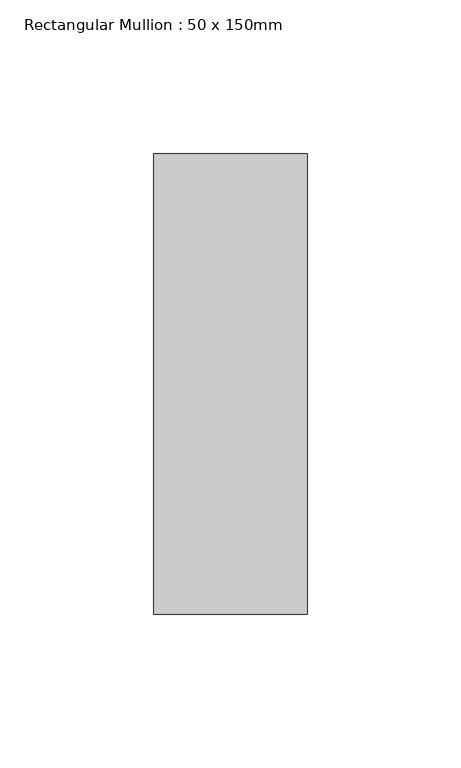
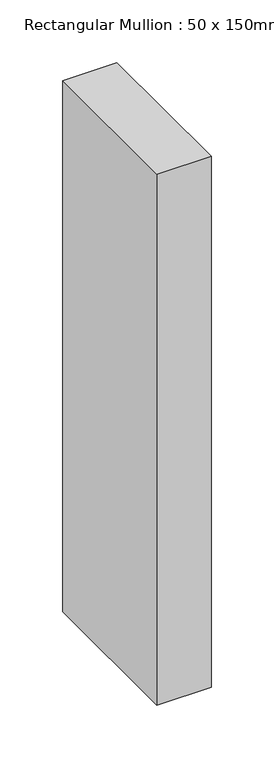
"""IFC4 building model written with IfcOpenShell, lengths in millimetres: member geometry, Rectangular Mullion : 50 x 150mm."""

from ifc_helpers import new_model, si_unit, frame, origin, place, context, project, spatial, polyline, outline, extrude, source, transform, mapped, element, save


def rectangular_mullion_50_x_150mm_1f6fd53c(model_context):
    return source(origin(), model_context, "Body", "SweptSolid", [
        extrude(outline(polyline([(0.0, 75.0), (0.0, -75.0), (-50.0, -75.0), (-50.0, 75.0), (0.0, 75.0)])), frame((0.0, 0.0, -517.2774266), z_axis=(0.0, 0.0, 1.0), x_axis=(1.0, 0.0, 0.0)), (0.0, 0.0, 1.0), 517.2774266),
    ])


if __name__ == "__main__":
    model = new_model("IFC4")
    model_context = context("Model", 3, world=origin())
    ifc_project = project(units=[si_unit("LENGTHUNIT", "METRE", prefix="MILLI")], contexts=[model_context])
    site = spatial("IfcSite", under=ifc_project)
    building = spatial("IfcBuilding", under=site)
    placement = place(None, origin())
    rectangular_mullion_50_x_150mm_shape = rectangular_mullion_50_x_150mm_1f6fd53c(model_context)
    element("IfcMember", 1, ObjectType="Rectangular Mullion : 50 x 150mm", at=placement, inside=building, context=model_context, shape_type="MappedRepresentation", body=[
        mapped(rectangular_mullion_50_x_150mm_shape, transform((0.0, 0.0, 0.0), x_axis=(1.0, 0.0, 0.0), y_axis=(0.0, 1.0, 0.0), z_axis=(0.0, 0.0, 1.0))),
    ])
    save(model, "model.ifc")
